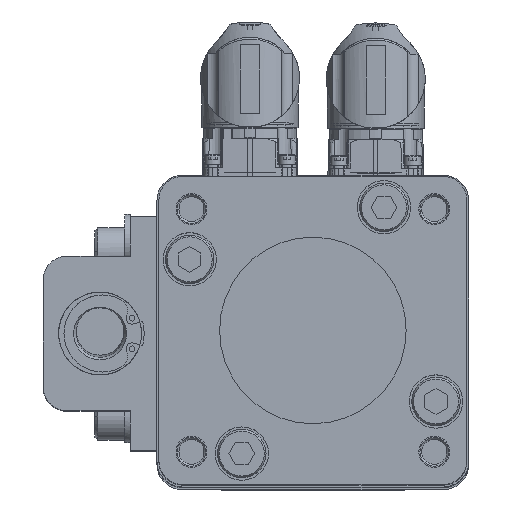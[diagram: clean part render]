
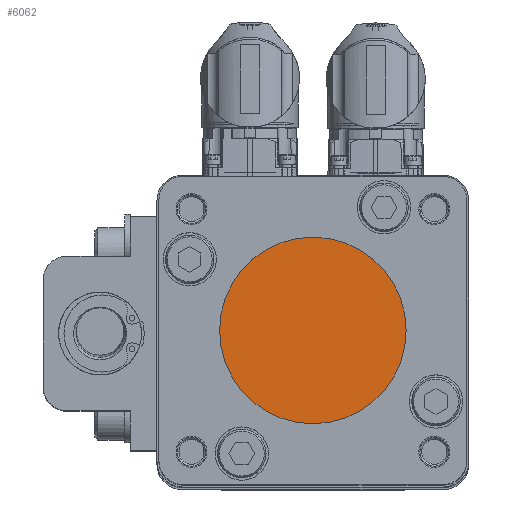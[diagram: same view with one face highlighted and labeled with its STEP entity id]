
A CAD part, top view. The second image highlights one B-rep face of the part: STEP entity #6062.
In plain terms, the highlighted planar face has unit normal (0, 0, 1).
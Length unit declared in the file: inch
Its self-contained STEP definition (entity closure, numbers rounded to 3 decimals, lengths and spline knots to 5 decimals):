
#1871 = CIRCLE ( 'NONE', #26365, 0.98425 ) ;
#5379 = CARTESIAN_POINT ( 'NONE',  ( 0., 0., 6.012 ) ) ;
#6062 = ADVANCED_FACE ( 'NONE', ( #35870 ), #53875, .T. ) ;
#9035 = CARTESIAN_POINT ( 'NONE',  ( 0., 0., 6.012 ) ) ;
#9722 = VERTEX_POINT ( 'NONE', #48961 ) ;
#14555 = DIRECTION ( 'NONE',  ( 1., 0., 0. ) ) ;
#14562 = EDGE_LOOP ( 'NONE', ( #15925 ) ) ;
#15925 = ORIENTED_EDGE ( 'NONE', *, *, #50608, .T. ) ;
#26365 = AXIS2_PLACEMENT_3D ( 'NONE', #5379, #36942, #14555 ) ;
#27019 = DIRECTION ( 'NONE',  ( 0., 0., 1. ) ) ;
#35870 = FACE_OUTER_BOUND ( 'NONE', #14562, .T. ) ;
#36942 = DIRECTION ( 'NONE',  ( 0., 0., 1. ) ) ;
#41355 = AXIS2_PLACEMENT_3D ( 'NONE', #9035, #27019, #44989 ) ;
#44989 = DIRECTION ( 'NONE',  ( 1., 0., 0. ) ) ;
#48961 = CARTESIAN_POINT ( 'NONE',  ( 0.98425, 0., 6.012 ) ) ;
#50608 = EDGE_CURVE ( 'NONE', #9722, #9722, #1871, .T. ) ;
#53875 = PLANE ( 'NONE',  #41355 ) ;
